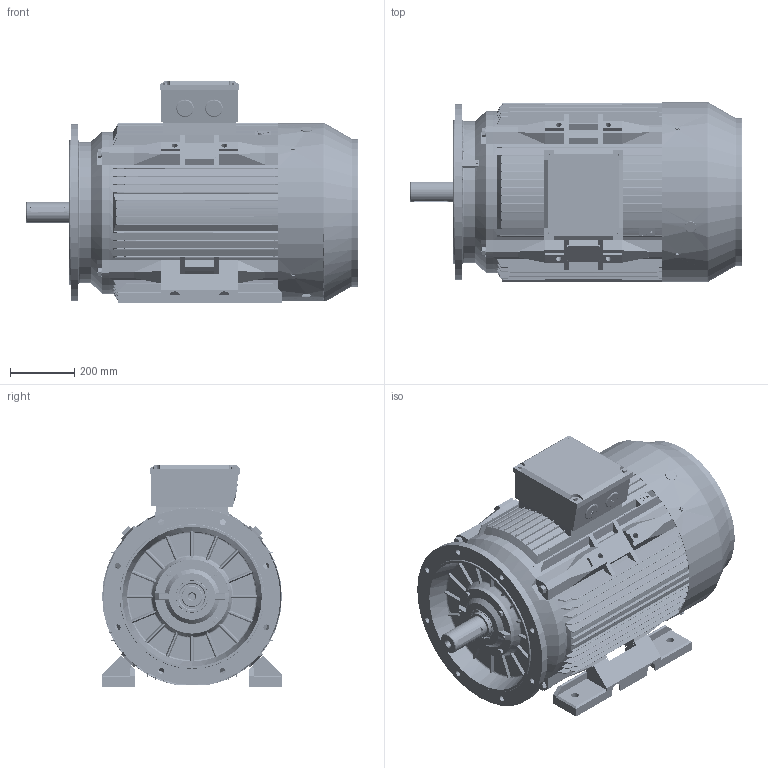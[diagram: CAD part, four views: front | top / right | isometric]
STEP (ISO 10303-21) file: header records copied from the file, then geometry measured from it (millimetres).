
FILE_DESCRIPTION (( 'STEP AP214' ), '1' );
FILE_NAME ('BCT3900.28D235.11.STEP', '2020-04-23T09:55:37', ( '' ), ( '' ), 'SwSTEP 2.0', 'SolidWorks 2019', '' );
FILE_SCHEMA (( 'AUTOMOTIVE_DESIGN' ));
Length unit declared in the file: millimetre
Products named in the file (1): BCT3900.28D235.11
Bounding box: 1032.2 x 559 x 688.14 mm (x, y, z)
Volume: 41304800.9 mm3; surface area: 7482330.9 mm2
Topology: 43 solids, 44 shells, 10015 faces, 29388 edges, 19393 vertices
Faces by surface type: plane 4984, cylinder 4263, cone 298, torus 231, sphere 124, bspline 115
Entity records: 367576 total; most frequent: CARTESIAN_POINT 93847, ORIENTED_EDGE 58368, DIRECTION 56149, EDGE_CURVE 29184, VERTEX_POINT 19331, AXIS2_PLACEMENT_3D 19137, LINE 17875, VECTOR 17875
